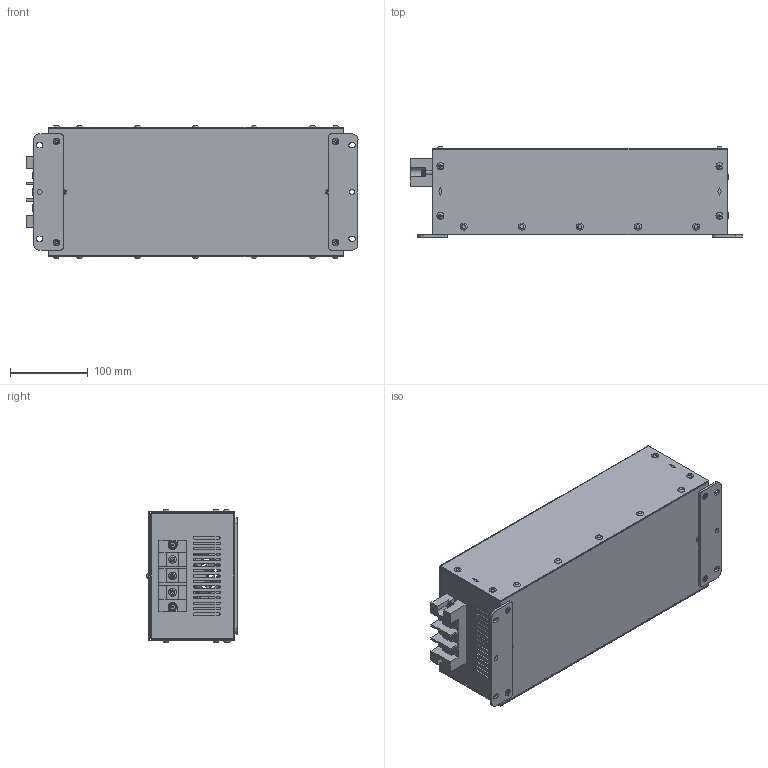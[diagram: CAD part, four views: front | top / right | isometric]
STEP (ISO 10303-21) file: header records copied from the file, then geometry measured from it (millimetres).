
FILE_DESCRIPTION(/* description */ ('','CAx-IF Rec.Pracs.---Representation and Presentation of Product Manufacturing Information (PMI)---4.0---2014-10-13'),/* implementation_level */ '2;1');
FILE_NAME(/* name */ 'H:\04_배터리_전기종\고부하용 배터리 케이스_3D\[NEW] VX2A 고객용\VX2A.stp',/* time_stamp */ '2023-02-24T16:01:27+09:00',/* author */ ('jjang'),/* organization */ (''),/* preprocessor_version */ 'ST-DEVELOPER v18.1',/* originating_system */ 'Autodesk Inventor 2021',/* authorisation */ '');
FILE_SCHEMA (('AP242_MANAGED_MODEL_BASED_3D_ENGINEERING_MIM_LF { 1 0 10303 442 1 1 4 }'));
Products named in the file (1): VX2A_2023.02.24(수정사항반영)_Shri
nkwrap_1
Bounding box: 427 x 116.46 x 171.09 mm (x, y, z)
Volume: 474336.6 mm3; surface area: 584322.4 mm2
Topology: 5 solids, 5 shells, 1889 faces, 5152 edges, 3348 vertices
Faces by surface type: plane 1074, cylinder 546, bspline 182, torus 43, cone 37, sphere 7
Full cylindrical faces by diameter (mm): 0.9 x2, 3.6 x8, 3.8 x8, 4 x28, 4.3 x4, 4.5 x6, 5 x12, 5.3 x20, 5.5 x6, 6.6 x2, 7.5 x8, 8.584 x2, 8.6 x2, 9 x8, 10 x4, 25.4 x1, 55.4 x1
Entity records: 68547 total; most frequent: CARTESIAN_POINT 19180, ORIENTED_EDGE 10294, DIRECTION 9948, EDGE_CURVE 5147, AXIS2_PLACEMENT_3D 3488, VERTEX_POINT 3348, LINE 2972, VECTOR 2972
